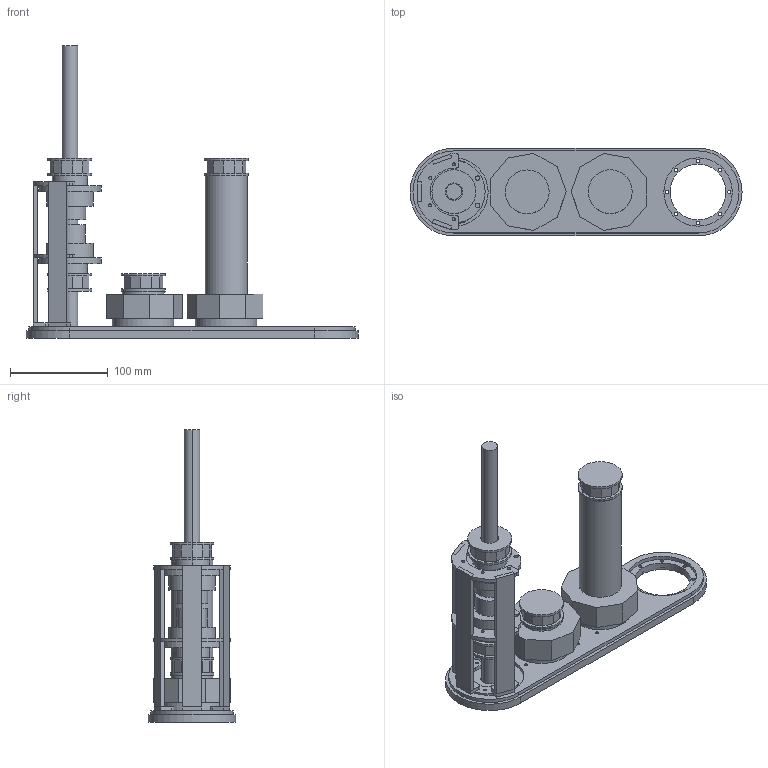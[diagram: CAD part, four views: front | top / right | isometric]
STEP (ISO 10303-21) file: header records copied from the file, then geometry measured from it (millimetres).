
FILE_DESCRIPTION (( 'STEP AP203' ), '1' );
FILE_NAME ('linkage2加带轮固定装配体（去掉螺钉）.STEP', '2024-11-01T11:56:54', ( '' ), ( '' ), 'SwSTEP 2.0', 'SolidWorks 2018', '' );
FILE_SCHEMA (( 'CONFIG_CONTROL_DESIGN' ));
Length unit declared in the file: millimetre
Products named in the file (9): Body002.step; Body.step; linkage2加带轮固定装配体（去掉螺钉）; 湍謫嘐隅殤; Body004.step; Linkage2L.step; Body005.step; Body001.step; Body003.step
Assembly tree (8 placements, depth 3):
  linkage2加带轮固定装配体（去掉螺钉）
    Linkage2L.step
      Body005.step
      Body004.step
      Body003.step
      Body002.step
      Body001.step
      Body.step
    湍謫嘐隅殤
Bounding box: 340 x 90 x 300 mm (x, y, z)
Volume: 1062626.4 mm3; surface area: 216055 mm2
Topology: 15 solids, 15 shells, 452 faces, 1101 edges, 710 vertices
Faces by surface type: cylinder 235, plane 181, cone 36
Entity records: 14486 total; most frequent: DIRECTION 2499, CARTESIAN_POINT 2275, ORIENTED_EDGE 2202, EDGE_CURVE 1101, AXIS2_PLACEMENT_3D 934, VERTEX_POINT 710, LINE 631, VECTOR 631
